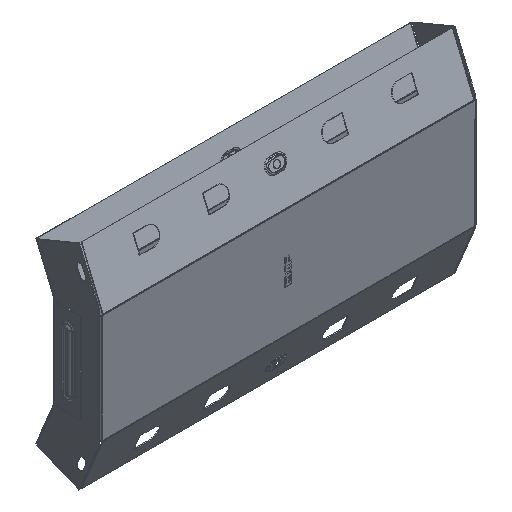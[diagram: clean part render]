
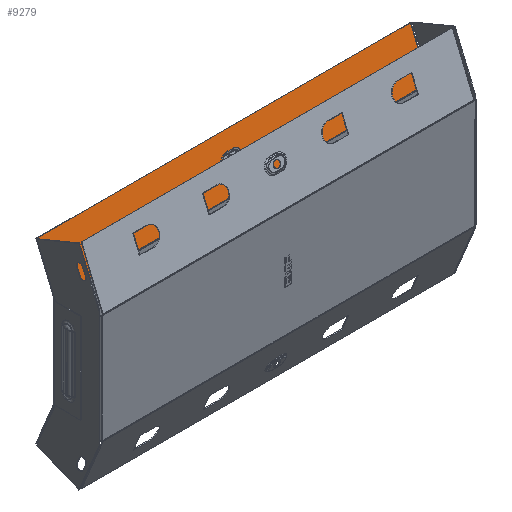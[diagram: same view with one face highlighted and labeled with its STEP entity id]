
A CAD part, isometric view. The second image highlights one B-rep face of the part: STEP entity #9279.
In plain terms, the highlighted planar face has unit normal (0, -0.924, 0.383).
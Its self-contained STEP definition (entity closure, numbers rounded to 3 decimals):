
#15 = ORIENTED_EDGE ( 'NONE', *, *, #3559, .F. ) ;
#173 = CARTESIAN_POINT ( 'NONE',  ( 3.5, 6.303, 65.307 ) ) ;
#184 = CARTESIAN_POINT ( 'NONE',  ( -199., 18.395, 94.5 ) ) ;
#423 = ORIENTED_EDGE ( 'NONE', *, *, #8983, .F. ) ;
#704 = EDGE_CURVE ( 'NONE', #6826, #9236, #6087, .T. ) ;
#993 = CARTESIAN_POINT ( 'NONE',  ( -3.5, 6.303, 65.307 ) ) ;
#1345 = VECTOR ( 'NONE', #4558, 1000. ) ;
#1440 = DIRECTION ( 'NONE',  ( -1., 0., 0. ) ) ;
#1457 = VECTOR ( 'NONE', #1440, 1000. ) ;
#1702 = DIRECTION ( 'NONE',  ( 0., -0.924, 0.383 ) ) ;
#1865 = CARTESIAN_POINT ( 'NONE',  ( -199., -0.663, 48.49 ) ) ;
#2121 = DIRECTION ( 'NONE',  ( 0., -0.383, -0.924 ) ) ;
#2543 = CARTESIAN_POINT ( 'NONE',  ( 199., -0.663, 48.49 ) ) ;
#2705 = DIRECTION ( 'NONE',  ( 0., -0.383, -0.924 ) ) ;
#2834 = ORIENTED_EDGE ( 'NONE', *, *, #9054, .T. ) ;
#3358 = ORIENTED_EDGE ( 'NONE', *, *, #10262, .F. ) ;
#3409 = EDGE_LOOP ( 'NONE', ( #4373, #423, #15, #5227 ) ) ;
#3410 = CARTESIAN_POINT ( 'NONE',  ( 199., 18.395, 94.5 ) ) ;
#3489 = FACE_BOUND ( 'NONE', #3409, .T. ) ;
#3559 = EDGE_CURVE ( 'NONE', #12535, #7742, #5667, .T. ) ;
#3865 = VECTOR ( 'NONE', #7709, 1000. ) ;
#4196 = ORIENTED_EDGE ( 'NONE', *, *, #4743, .T. ) ;
#4289 = EDGE_LOOP ( 'NONE', ( #4196, #12922, #3358, #2834 ) ) ;
#4349 = LINE ( 'NONE', #5894, #8009 ) ;
#4373 = ORIENTED_EDGE ( 'NONE', *, *, #704, .F. ) ;
#4558 = DIRECTION ( 'NONE',  ( -1., 0., 0. ) ) ;
#4743 = EDGE_CURVE ( 'NONE', #7511, #10515, #6753, .T. ) ;
#4959 = CARTESIAN_POINT ( 'NONE',  ( 199., -0.663, 48.49 ) ) ;
#5227 = ORIENTED_EDGE ( 'NONE', *, *, #12989, .F. ) ;
#5459 = CARTESIAN_POINT ( 'NONE',  ( 3.5, 9.211, 72.327 ) ) ;
#5667 = CIRCLE ( 'NONE', #6849, 7.598 ) ;
#5894 = CARTESIAN_POINT ( 'NONE',  ( 199., -0.739, 48.306 ) ) ;
#6087 = CIRCLE ( 'NONE', #9994, 7.598 ) ;
#6384 = DIRECTION ( 'NONE',  ( 0., 0.383, 0.924 ) ) ;
#6464 = LINE ( 'NONE', #3410, #11025 ) ;
#6753 = LINE ( 'NONE', #8180, #7795 ) ;
#6826 = VERTEX_POINT ( 'NONE', #173 ) ;
#6849 = AXIS2_PLACEMENT_3D ( 'NONE', #9367, #1702, #12767 ) ;
#6928 = PLANE ( 'NONE',  #11289 ) ;
#7161 = DIRECTION ( 'NONE',  ( 0., -0.383, -0.924 ) ) ;
#7511 = VERTEX_POINT ( 'NONE', #184 ) ;
#7709 = DIRECTION ( 'NONE',  ( 1., 0., 0. ) ) ;
#7742 = VERTEX_POINT ( 'NONE', #8493 ) ;
#7795 = VECTOR ( 'NONE', #2705, 1000. ) ;
#8009 = VECTOR ( 'NONE', #7161, 1000. ) ;
#8036 = VERTEX_POINT ( 'NONE', #14143 ) ;
#8180 = CARTESIAN_POINT ( 'NONE',  ( -199., -0.739, 48.306 ) ) ;
#8428 = VERTEX_POINT ( 'NONE', #4959 ) ;
#8493 = CARTESIAN_POINT ( 'NONE',  ( -3.5, 6.303, 65.307 ) ) ;
#8520 = LINE ( 'NONE', #2543, #1345 ) ;
#8983 = EDGE_CURVE ( 'NONE', #7742, #6826, #11376, .T. ) ;
#9054 = EDGE_CURVE ( 'NONE', #8036, #7511, #6464, .T. ) ;
#9236 = VERTEX_POINT ( 'NONE', #10990 ) ;
#9279 = ADVANCED_FACE ( 'NONE', ( #3489, #10847 ), #6928, .F. ) ;
#9367 = CARTESIAN_POINT ( 'NONE',  ( -3.5, 9.211, 72.327 ) ) ;
#9873 = DIRECTION ( 'NONE',  ( 0., -0.924, 0.383 ) ) ;
#9994 = AXIS2_PLACEMENT_3D ( 'NONE', #5459, #9873, #2121 ) ;
#10262 = EDGE_CURVE ( 'NONE', #8036, #8428, #4349, .T. ) ;
#10507 = CARTESIAN_POINT ( 'NONE',  ( 199., -0.739, 48.306 ) ) ;
#10515 = VERTEX_POINT ( 'NONE', #1865 ) ;
#10794 = EDGE_CURVE ( 'NONE', #8428, #10515, #8520, .T. ) ;
#10847 = FACE_OUTER_BOUND ( 'NONE', #4289, .T. ) ;
#10990 = CARTESIAN_POINT ( 'NONE',  ( 3.5, 12.118, 79.347 ) ) ;
#11025 = VECTOR ( 'NONE', #13429, 1000. ) ;
#11289 = AXIS2_PLACEMENT_3D ( 'NONE', #10507, #11767, #6384 ) ;
#11376 = LINE ( 'NONE', #993, #3865 ) ;
#11767 = DIRECTION ( 'NONE',  ( 0., 0.924, -0.383 ) ) ;
#12535 = VERTEX_POINT ( 'NONE', #13246 ) ;
#12678 = LINE ( 'NONE', #13717, #1457 ) ;
#12767 = DIRECTION ( 'NONE',  ( 0., -0.383, -0.924 ) ) ;
#12922 = ORIENTED_EDGE ( 'NONE', *, *, #10794, .F. ) ;
#12989 = EDGE_CURVE ( 'NONE', #9236, #12535, #12678, .T. ) ;
#13246 = CARTESIAN_POINT ( 'NONE',  ( -3.5, 12.118, 79.347 ) ) ;
#13429 = DIRECTION ( 'NONE',  ( -1., 0., 0. ) ) ;
#13717 = CARTESIAN_POINT ( 'NONE',  ( -3.5, 12.118, 79.347 ) ) ;
#14143 = CARTESIAN_POINT ( 'NONE',  ( 199., 18.395, 94.5 ) ) ;
